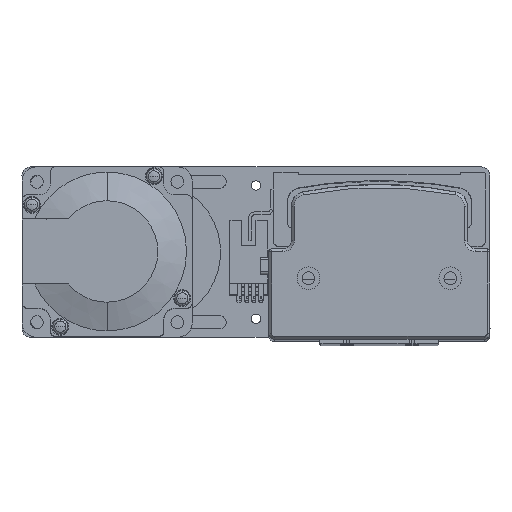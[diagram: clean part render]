
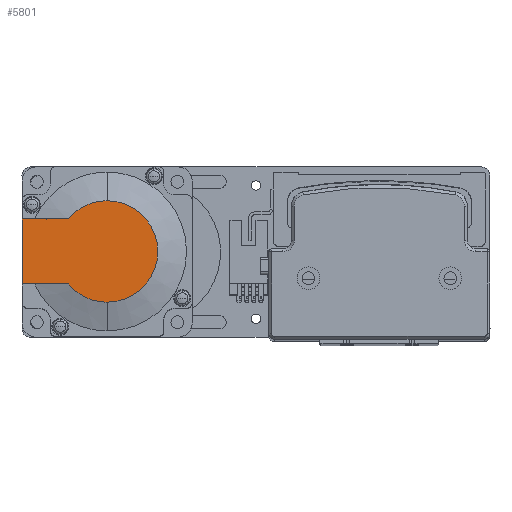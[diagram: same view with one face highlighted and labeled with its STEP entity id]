
A CAD part, top view. The second image highlights one B-rep face of the part: STEP entity #5801.
In plain terms, the highlighted planar face has unit normal (0, 0, 1) as drawn and (-1, 0, 0) by its records, which use the part's own axes.
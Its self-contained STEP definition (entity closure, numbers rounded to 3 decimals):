
#358 = DIRECTION ( 'NONE',  ( -1., 0., 0. ) ) ;
#691 = CARTESIAN_POINT ( 'NONE',  ( -118.5, 0., 0. ) ) ;
#1189 = PLANE ( 'NONE',  #43215 ) ;
#1353 = CARTESIAN_POINT ( 'NONE',  ( -118.5, -8.941, 0. ) ) ;
#1552 = DIRECTION ( 'NONE',  ( 0., 0., -1. ) ) ;
#3770 = VECTOR ( 'NONE', #5304, 1000. ) ;
#3921 = EDGE_CURVE ( 'NONE', #24088, #19337, #41751, .T. ) ;
#4462 = DIRECTION ( 'NONE',  ( 0., 0., -1. ) ) ;
#4930 = LINE ( 'NONE', #27445, #3770 ) ;
#5119 = DIRECTION ( 'NONE',  ( 0., 0., 1. ) ) ;
#5212 = CARTESIAN_POINT ( 'NONE',  ( -118.5, 30., -11.45 ) ) ;
#5250 = AXIS2_PLACEMENT_3D ( 'NONE', #45849, #23722, #1552 ) ;
#5304 = DIRECTION ( 'NONE',  ( 0., -1., 0. ) ) ;
#5801 = ADVANCED_FACE ( 'NONE', ( #43787 ), #1189, .T. ) ;
#7509 = LINE ( 'NONE', #30276, #34663 ) ;
#8484 = CIRCLE ( 'NONE', #5250, 17.881 ) ;
#8671 = CARTESIAN_POINT ( 'NONE',  ( -118.5, 0., 11.45 ) ) ;
#10826 = VERTEX_POINT ( 'NONE', #5212 ) ;
#12408 = DIRECTION ( 'NONE',  ( 0., -1., 0. ) ) ;
#13723 = AXIS2_PLACEMENT_3D ( 'NONE', #22571, #358, #26308 ) ;
#16970 = VERTEX_POINT ( 'NONE', #46119 ) ;
#18171 = CARTESIAN_POINT ( 'NONE',  ( -118.5, 30., 11.45 ) ) ;
#19337 = VERTEX_POINT ( 'NONE', #36391 ) ;
#19408 = CARTESIAN_POINT ( 'NONE',  ( -118.5, 13.735, 11.45 ) ) ;
#21092 = CIRCLE ( 'NONE', #37188, 17.881 ) ;
#22571 = CARTESIAN_POINT ( 'NONE',  ( -118.5, 0., 0. ) ) ;
#22856 = EDGE_LOOP ( 'NONE', ( #23217, #24161, #27377, #33538, #41902, #43258 ) ) ;
#23217 = ORIENTED_EDGE ( 'NONE', *, *, #36473, .T. ) ;
#23722 = DIRECTION ( 'NONE',  ( -1., 0., 0. ) ) ;
#24088 = VERTEX_POINT ( 'NONE', #31566 ) ;
#24161 = ORIENTED_EDGE ( 'NONE', *, *, #3921, .T. ) ;
#24470 = EDGE_CURVE ( 'NONE', #19337, #16970, #8484, .T. ) ;
#24713 = VECTOR ( 'NONE', #12408, 1000. ) ;
#25862 = LINE ( 'NONE', #8671, #24713 ) ;
#26308 = DIRECTION ( 'NONE',  ( 0., 0., -1. ) ) ;
#26613 = DIRECTION ( 'NONE',  ( -1., 0., 0. ) ) ;
#27256 = DIRECTION ( 'NONE',  ( -1., 0., 0. ) ) ;
#27331 = VERTEX_POINT ( 'NONE', #19408 ) ;
#27377 = ORIENTED_EDGE ( 'NONE', *, *, #24470, .T. ) ;
#27445 = CARTESIAN_POINT ( 'NONE',  ( -118.5, -8.941, -11.45 ) ) ;
#30276 = CARTESIAN_POINT ( 'NONE',  ( -118.5, 30., 25. ) ) ;
#31566 = CARTESIAN_POINT ( 'NONE',  ( -118.5, 13.735, -11.45 ) ) ;
#33538 = ORIENTED_EDGE ( 'NONE', *, *, #41827, .T. ) ;
#33996 = DIRECTION ( 'NONE',  ( 0., 0., 1. ) ) ;
#34622 = VERTEX_POINT ( 'NONE', #18171 ) ;
#34663 = VECTOR ( 'NONE', #33996, 1000. ) ;
#34742 = EDGE_CURVE ( 'NONE', #10826, #34622, #7509, .T. ) ;
#36391 = CARTESIAN_POINT ( 'NONE',  ( -118.5, 0., -17.881 ) ) ;
#36473 = EDGE_CURVE ( 'NONE', #10826, #24088, #4930, .T. ) ;
#37188 = AXIS2_PLACEMENT_3D ( 'NONE', #691, #26613, #4462 ) ;
#41751 = CIRCLE ( 'NONE', #13723, 17.881 ) ;
#41827 = EDGE_CURVE ( 'NONE', #16970, #27331, #21092, .T. ) ;
#41902 = ORIENTED_EDGE ( 'NONE', *, *, #47017, .F. ) ;
#43215 = AXIS2_PLACEMENT_3D ( 'NONE', #1353, #27256, #5119 ) ;
#43258 = ORIENTED_EDGE ( 'NONE', *, *, #34742, .F. ) ;
#43787 = FACE_OUTER_BOUND ( 'NONE', #22856, .T. ) ;
#45849 = CARTESIAN_POINT ( 'NONE',  ( -118.5, 0., 0. ) ) ;
#46119 = CARTESIAN_POINT ( 'NONE',  ( -118.5, 0., 17.881 ) ) ;
#47017 = EDGE_CURVE ( 'NONE', #34622, #27331, #25862, .T. ) ;
